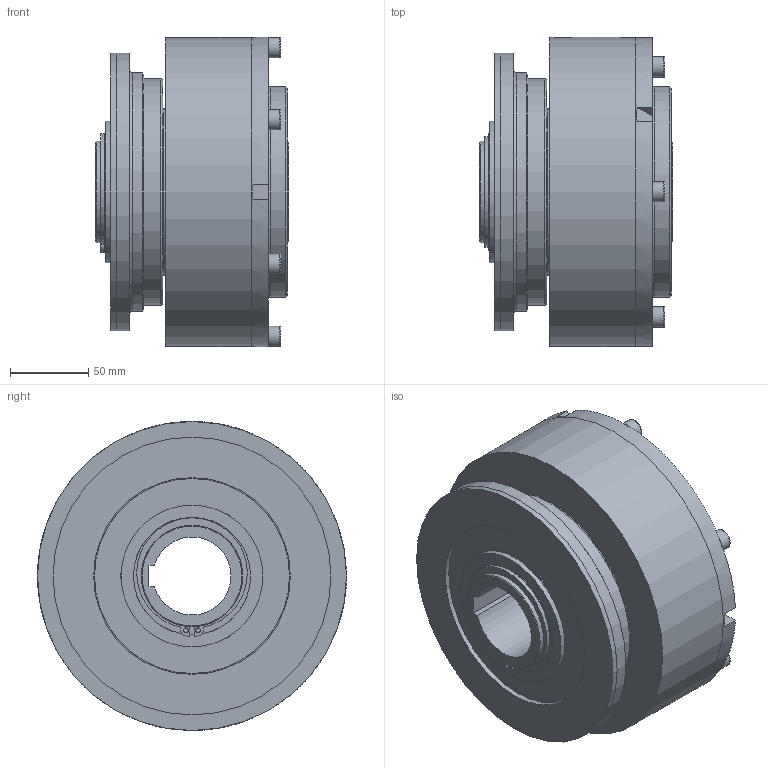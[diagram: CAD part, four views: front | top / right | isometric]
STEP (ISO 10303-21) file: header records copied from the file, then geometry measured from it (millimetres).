
FILE_DESCRIPTION(/* description */ (''),/* implementation_level */ '2;1');
FILE_NAME(/* name */ 'X:\INVENTOR\DISEGNI\03_Friz_Oleod_Pneum_Cil_Stat\03_53 MP-N\03_53_05_01 MP-N05\03_53_05_01 MPR-N05@STEP.stp',/* time_stamp */ '2023-02-06T11:23:33+01:00',/* author */ ('alessio'),/* organization */ (''),/* preprocessor_version */ 'ST-DEVELOPER v18.1',/* originating_system */ 'Autodesk Inventor 2021',/* authorisation */ '');
FILE_SCHEMA (('AUTOMOTIVE_DESIGN { 1 0 10303 214 3 1 1 }'));
Products named in the file (1): 03_53_05_01 MPR-N05
Bounding box: 124 x 198 x 198 mm (x, y, z)
Volume: 2250531.1 mm3; surface area: 495963 mm2
Topology: 1 solids, 15 shells, 1006 faces, 2812 edges, 1839 vertices
Faces by surface type: cylinder 418, plane 247, torus 216, bspline 65, cone 39, sphere 21
Full cylindrical faces by diameter (mm): 3 x4, 3.5 x2, 6.647 x6, 7.5 x3, 8 x7, 8.5 x6, 9.5 x26, 11.445 x1, 13 x6, 62 x2, 65 x7, 75 x1, 77 x1, 80 x1, 82.6 x4, 85 x1, 90.8 x1, 94.5 x1, 95 x2, 102.4 x4, 105 x1, 107 x3, 111 x2, 116.5 x2, 120 x3, 124 x1, 125 x1, 126 x1, 129 x2, 132 x1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
Entity records: 76908 total; most frequent: CARTESIAN_POINT 50210, ORIENTED_EDGE 5514, DIRECTION 5387, EDGE_CURVE 2757, AXIS2_PLACEMENT_3D 2351, VERTEX_POINT 1839, CIRCLE 1405, EDGE_LOOP 1202
